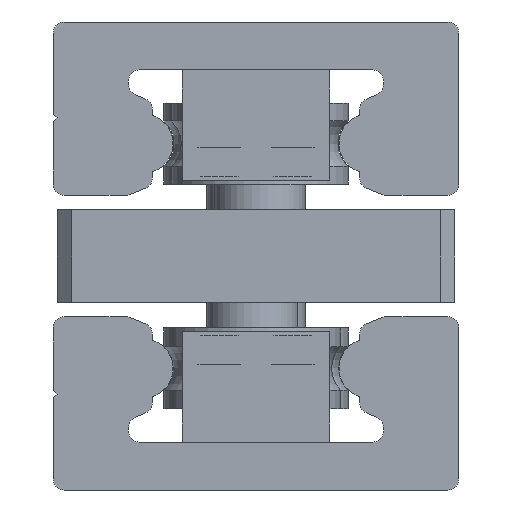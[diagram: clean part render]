
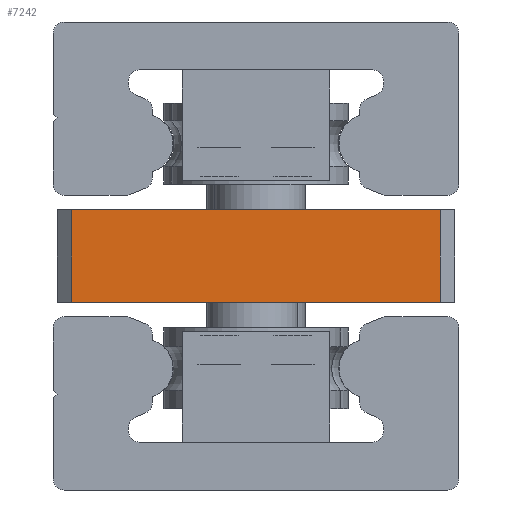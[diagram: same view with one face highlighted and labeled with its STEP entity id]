
A CAD part, left-side view. The second image highlights one B-rep face of the part: STEP entity #7242.
In plain terms, the highlighted planar face has unit normal (-1, 0, 0).
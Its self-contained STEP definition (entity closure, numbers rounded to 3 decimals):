
#170 = CARTESIAN_POINT ( 'NONE',  ( 0., -25., 21.5 ) ) ;
#285 = CARTESIAN_POINT ( 'NONE',  ( 0., 25., 21.5 ) ) ;
#999 = DIRECTION ( 'NONE',  ( 1., 0., 0. ) ) ;
#1069 = EDGE_LOOP ( 'NONE', ( #3630, #1954, #5033, #1207 ) ) ;
#1081 = DIRECTION ( 'NONE',  ( 0., 0., -1. ) ) ;
#1131 = VERTEX_POINT ( 'NONE', #285 ) ;
#1207 = ORIENTED_EDGE ( 'NONE', *, *, #6249, .F. ) ;
#1377 = VECTOR ( 'NONE', #5683, 1000. ) ;
#1405 = CARTESIAN_POINT ( 'NONE',  ( 0., 27., 21.5 ) ) ;
#1596 = DIRECTION ( 'NONE',  ( 0., 0., 1. ) ) ;
#1636 = LINE ( 'NONE', #3747, #5017 ) ;
#1954 = ORIENTED_EDGE ( 'NONE', *, *, #8575, .F. ) ;
#2032 = CARTESIAN_POINT ( 'NONE',  ( 0., -25., 9. ) ) ;
#2359 = CARTESIAN_POINT ( 'NONE',  ( 0., 25., 9. ) ) ;
#2439 = PLANE ( 'NONE',  #4275 ) ;
#2474 = CARTESIAN_POINT ( 'NONE',  ( 0., -25., 12.125 ) ) ;
#2681 = VECTOR ( 'NONE', #1596, 1000. ) ;
#3122 = FACE_OUTER_BOUND ( 'NONE', #1069, .T. ) ;
#3242 = LINE ( 'NONE', #2474, #4561 ) ;
#3575 = LINE ( 'NONE', #1405, #1377 ) ;
#3630 = ORIENTED_EDGE ( 'NONE', *, *, #7085, .F. ) ;
#3747 = CARTESIAN_POINT ( 'NONE',  ( 0., -27., 9. ) ) ;
#3752 = DIRECTION ( 'NONE',  ( 0., 0., -1. ) ) ;
#4275 = AXIS2_PLACEMENT_3D ( 'NONE', #7996, #999, #3752 ) ;
#4561 = VECTOR ( 'NONE', #1081, 1000. ) ;
#5017 = VECTOR ( 'NONE', #5732, 1000. ) ;
#5033 = ORIENTED_EDGE ( 'NONE', *, *, #7521, .F. ) ;
#5377 = VERTEX_POINT ( 'NONE', #170 ) ;
#5683 = DIRECTION ( 'NONE',  ( 0., -1., 0. ) ) ;
#5732 = DIRECTION ( 'NONE',  ( 0., 1., 0. ) ) ;
#6249 = EDGE_CURVE ( 'NONE', #1131, #5377, #3575, .T. ) ;
#6372 = LINE ( 'NONE', #8463, #2681 ) ;
#7085 = EDGE_CURVE ( 'NONE', #8265, #1131, #6372, .T. ) ;
#7242 = ADVANCED_FACE ( 'NONE', ( #3122 ), #2439, .F. ) ;
#7521 = EDGE_CURVE ( 'NONE', #5377, #8495, #3242, .T. ) ;
#7996 = CARTESIAN_POINT ( 'NONE',  ( 0., 0., 15.25 ) ) ;
#8265 = VERTEX_POINT ( 'NONE', #2359 ) ;
#8463 = CARTESIAN_POINT ( 'NONE',  ( 0., 25., 18.375 ) ) ;
#8495 = VERTEX_POINT ( 'NONE', #2032 ) ;
#8575 = EDGE_CURVE ( 'NONE', #8495, #8265, #1636, .T. ) ;
